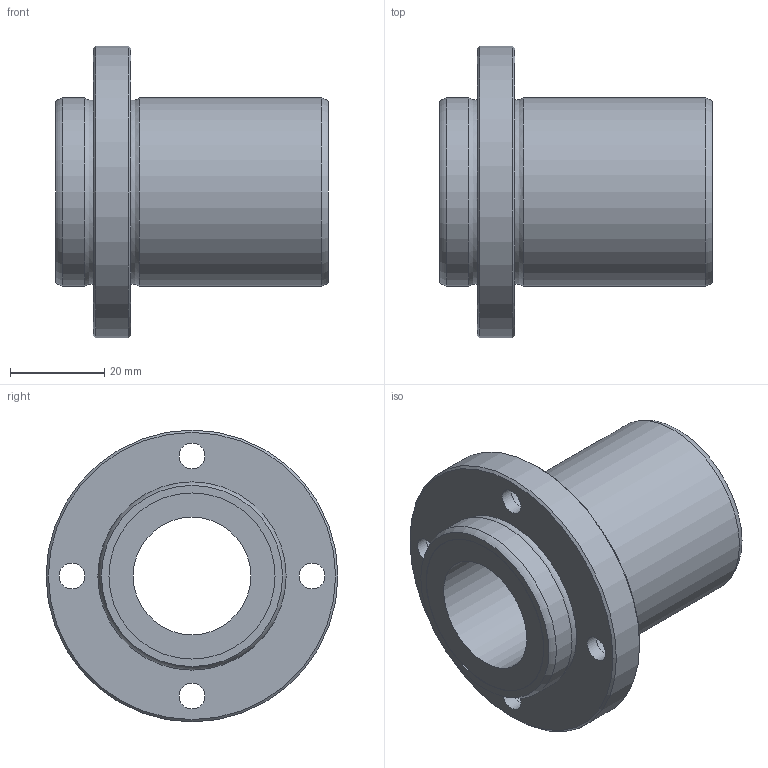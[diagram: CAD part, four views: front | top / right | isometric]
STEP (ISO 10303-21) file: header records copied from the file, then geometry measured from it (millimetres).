
FILE_DESCRIPTION((''),'2;1');
FILE_NAME('D:\製品 (図面)\カタログ用3D\リニアベアリング関連\STEP形式\LFB\LFB25.stp','2010-06-03T09:18:02',('Tsuchiya'),(''),'Autodesk Inventor 10','Autodesk Inventor 10','');
FILE_SCHEMA(('AUTOMOTIVE_DESIGN { 1 0 10303 214 1 1 1 1 }'));
Length unit declared in the file: millimetre
Products named in the file (1): LFB25
Bounding box: 58 x 62 x 62 mm (x, y, z)
Volume: 56473.1 mm3; surface area: 17927.8 mm2
Topology: 1 solids, 1 shells, 30 faces, 54 edges, 34 vertices
Faces by surface type: bspline 14, cylinder 6, plane 6, cone 2, torus 2
Full cylindrical faces by diameter (mm): 25 x1, 35.3 x2, 40 x2, 62 x1
Entity records: 907 total; most frequent: CARTESIAN_POINT 371, DIRECTION 102, ORIENTED_EDGE 68, EDGE_LOOP 68, AXIS2_PLACEMENT_3D 51, FACE_BOUND 38, VERTEX_POINT 34, CIRCLE 34
